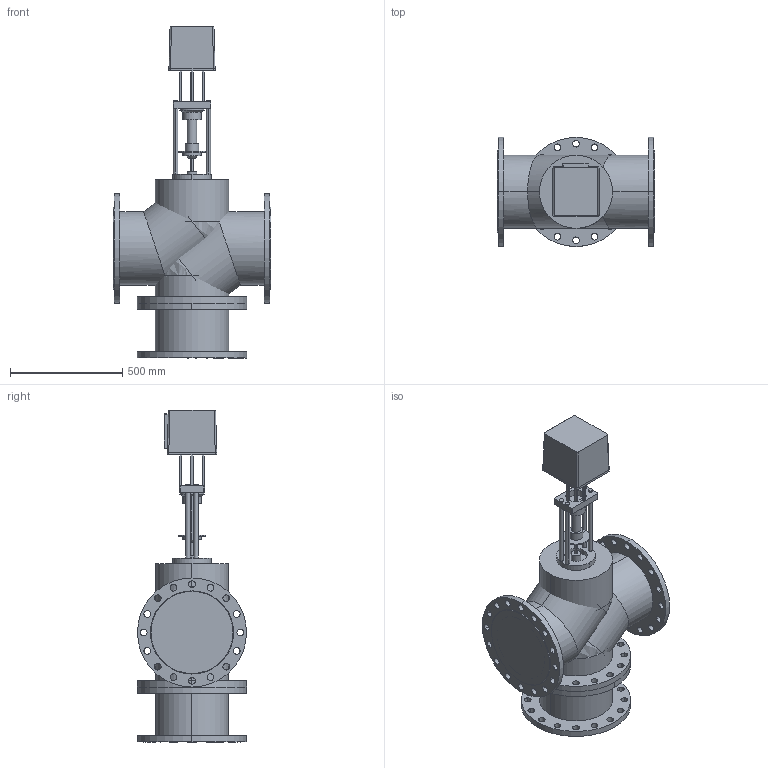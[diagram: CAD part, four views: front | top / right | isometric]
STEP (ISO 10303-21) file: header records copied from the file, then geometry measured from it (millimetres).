
FILE_DESCRIPTION(/* description */ (''),/* implementation_level */ '2;1');
FILE_NAME(/* name */ 'ТРК DN300 PN 2.5 МПа LEA 26000',/* time_stamp */ '2026-07-14T23:08:32+03:00',/* author */ (''),/* organization */ (''),/* preprocessor_version */ 'ST-DEVELOPER v20',/* originating_system */ '',/* authorisation */ '');
FILE_SCHEMA (('AP242_MANAGED_MODEL_BASED_3D_ENGINEERING_MIM_LF { 1 0 10303 442 1 1 4 }'));
Length unit declared in the file: millimetre
Products named in the file (16): TopLevelAssembly; Выдавливание; Модификатор; Модификатор_1; Выдавливание_
1; Выдавливание_
2; Вращение; Выдавливание_
3; Выдавливание_
4; Выдавливание_
5; Выдавливание_
6; Выдавливание_
7; 1600; Переход; Объемная геометрия 
присоединена; Объемная геометрия 
присоединена_1
Assembly tree (15 placements, depth 2):
  TopLevelAssembly
    Выдавливание
    Модификатор
    Модификатор_1
    Выдавливание_
1
    Выдавливание_
2
    Вращение
    Выдавливание_
3
    Выдавливание_
4
    Выдавливание_
5
    Выдавливание_
6
    Выдавливание_
7
    1600
    Переход
    Объемная геометрия 
присоединена
    Объемная геометрия 
присоединена_1
Bounding box: 698 x 485 x 1476 mm (x, y, z)
Volume: 159321161.2 mm3; surface area: 5293395.2 mm2
Topology: 24 solids, 24 shells, 369 faces, 914 edges, 596 vertices
Faces by surface type: cylinder 256, plane 95, bspline 14, cone 4
Entity records: 12375 total; most frequent: DIRECTION 2224, CARTESIAN_POINT 2174, ORIENTED_EDGE 1812, AXIS2_PLACEMENT_3D 932, EDGE_CURVE 906, VERTEX_POINT 596, EDGE_LOOP 552, CIRCLE 534
